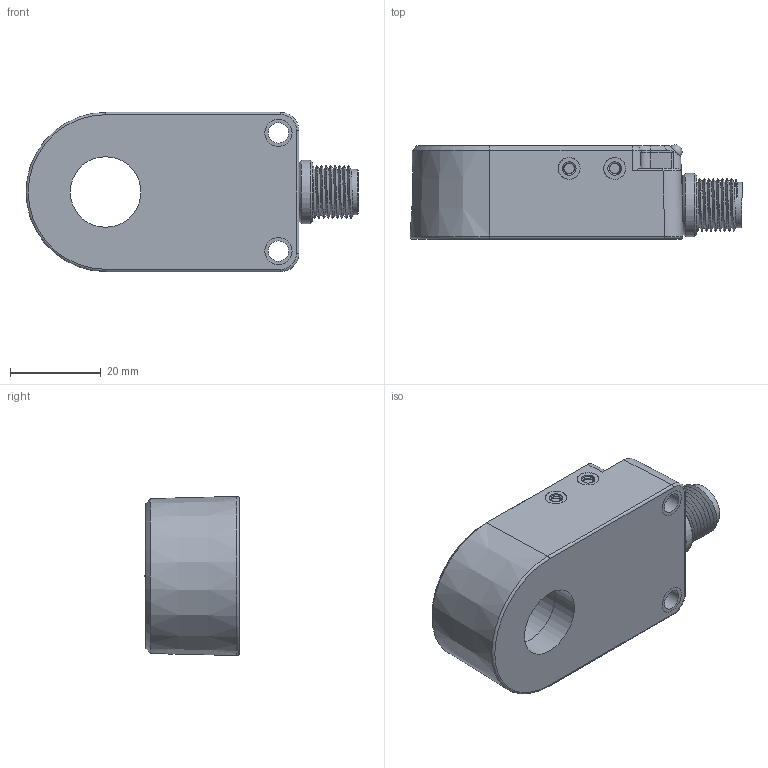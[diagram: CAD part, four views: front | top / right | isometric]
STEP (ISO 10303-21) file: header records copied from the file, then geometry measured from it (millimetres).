
FILE_DESCRIPTION(/* description */ (''),/* implementation_level */ '2;1');
FILE_NAME(/* name */ 'F:\HUAYIFENG\02)HUAYIFENG_3D_MODE\新环型\newhuanxing\3D_PC\PC15-C2.stp',/* time_stamp */ '2019-06-19T19:50:48+08:00',/* author */ ('fengjiarun'),/* organization */ (''),/* preprocessor_version */ 'ST-DEVELOPER v16.5',/* originating_system */ 'Autodesk Inventor 2017',/* authorisation */ '');
FILE_SCHEMA (('AUTOMOTIVE_DESIGN { 1 0 10303 214 3 1 1 }'));
Length unit declared in the file: millimetre
Products named in the file (1): 零件15
Bounding box: 72.99 x 20.73 x 35 mm (x, y, z)
Volume: 34845.2 mm3; surface area: 9532.6 mm2
Topology: 1 solids, 1 shells, 207 faces, 503 edges, 320 vertices
Faces by surface type: plane 67, cylinder 62, bspline 53, torus 18, cone 5, sphere 2
Full cylindrical faces by diameter (mm): 1.5 x4, 3 x3, 3.05 x1, 4.5 x2, 4.8 x2, 8 x1, 10 x1, 14 x1, 15.5 x3
Entity records: 11893 total; most frequent: CARTESIAN_POINT 7279, ORIENTED_EDGE 916, DIRECTION 829, EDGE_CURVE 458, AXIS2_PLACEMENT_3D 334, VERTEX_POINT 300, EDGE_LOOP 256, STYLED_ITEM 206
